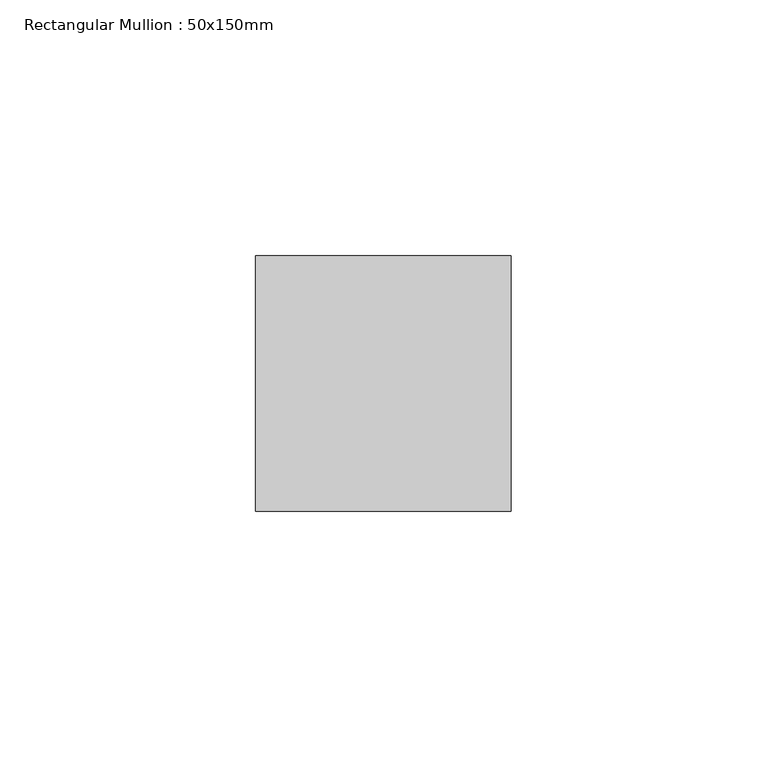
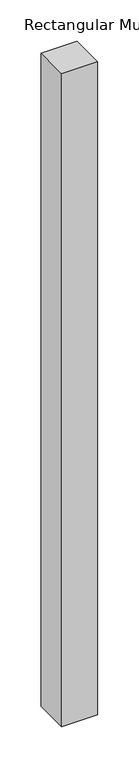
"""IFC4 building model written with IfcOpenShell, lengths in millimetres: member geometry, Rectangular Mullion : 50x150mm."""

from ifc_helpers import new_model, si_unit, frame, origin, place, context, project, spatial, polyline, outline, extrude, source, transform, mapped, element, save


def rectangular_mullion_50x150mm_6c6b3207(model_context):
    return source(origin(), model_context, "Body", "SweptSolid", [
        extrude(outline(polyline([(0.0, 25.0), (0.0, -25.0), (-50.0, -25.0), (-50.0, 25.0), (0.0, 25.0)])), frame((0.0, 0.0, -964.4911464), z_axis=(0.0, 0.0, 1.0), x_axis=(1.0, 0.0, 0.0)), (0.0, 0.0, 1.0), 964.4911464),
    ])


if __name__ == "__main__":
    model = new_model("IFC4")
    model_context = context("Model", 3, world=origin())
    ifc_project = project(units=[si_unit("LENGTHUNIT", "METRE", prefix="MILLI")], contexts=[model_context])
    site = spatial("IfcSite", under=ifc_project)
    building = spatial("IfcBuilding", under=site)
    placement = place(None, origin())
    rectangular_mullion_50x150mm_shape = rectangular_mullion_50x150mm_6c6b3207(model_context)
    element("IfcMember", 1, ObjectType="Rectangular Mullion : 50x150mm", at=placement, inside=building, context=model_context, shape_type="MappedRepresentation", body=[
        mapped(rectangular_mullion_50x150mm_shape, transform((0.0, 0.0, 0.0), x_axis=(1.0, 0.0, 0.0), y_axis=(0.0, 1.0, 0.0), z_axis=(0.0, 0.0, 1.0))),
    ])
    save(model, "model.ifc")
